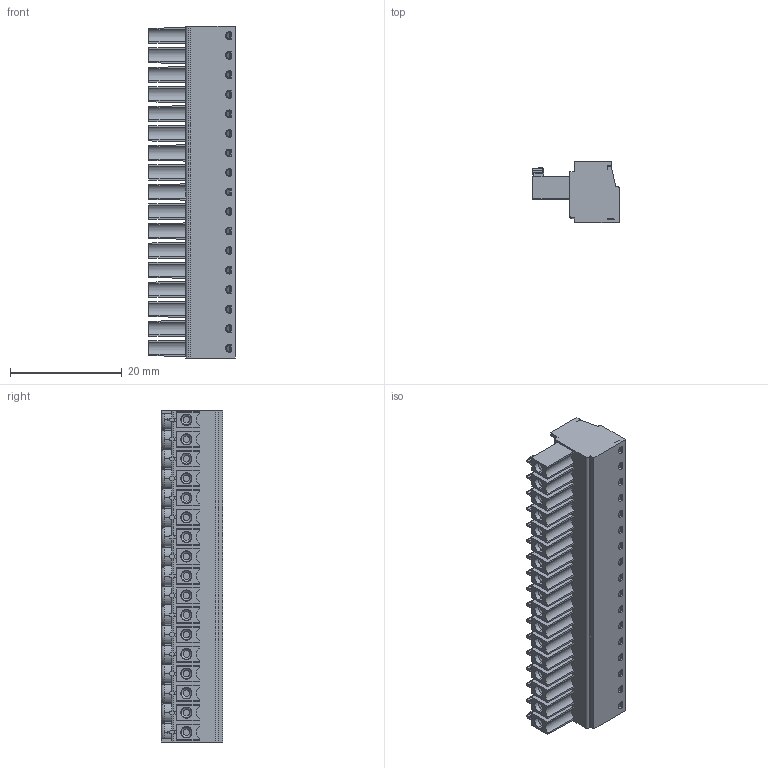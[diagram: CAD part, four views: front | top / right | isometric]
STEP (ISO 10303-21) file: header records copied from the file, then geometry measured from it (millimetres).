
FILE_DESCRIPTION (( 'STEP AP203' ), '1' );
FILE_NAME ('110-A-111-17.STEP', '2007-09-25T05:43:42', ( ' ' ), ( '' ), 'SwSTEP 2.0', 'SolidWorks 2007', '' );
FILE_SCHEMA (( 'CONFIG_CONTROL_DESIGN' ));
Products named in the file (1): 110-A-111-17
Bounding box: 15.5 x 11 x 59.5 mm (x, y, z)
Volume: 5856 mm3; surface area: 5929.7 mm2
Topology: 1 solids, 16 shells, 2325 faces, 5928 edges, 3771 vertices
Faces by surface type: plane 1288, cylinder 529, cone 255, torus 134, bspline 119
Entity records: 74312 total; most frequent: CARTESIAN_POINT 18540, ORIENTED_EDGE 11856, DIRECTION 11281, EDGE_CURVE 5928, AXIS2_PLACEMENT_3D 3790, VERTEX_POINT 3771, VECTOR 3701, LINE 3701
